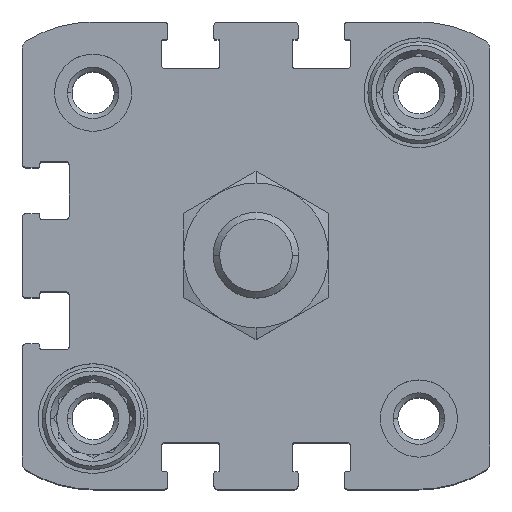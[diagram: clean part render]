
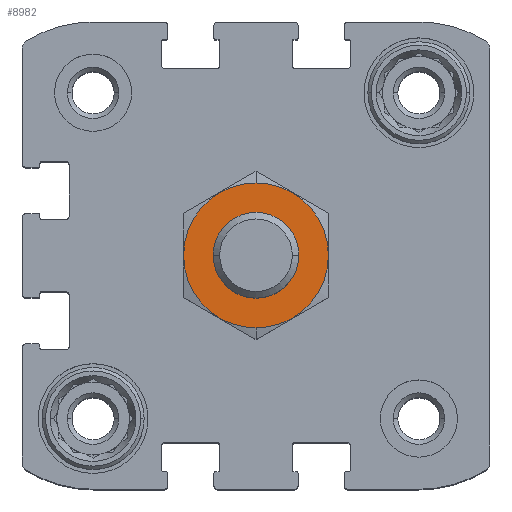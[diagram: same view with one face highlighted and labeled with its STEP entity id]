
A CAD part, top view. The second image highlights one B-rep face of the part: STEP entity #8982.
In plain terms, the highlighted planar face has unit normal (0, 0, 1).
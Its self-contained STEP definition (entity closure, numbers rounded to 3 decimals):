
#56 = AXIS2_PLACEMENT_3D ( 'NONE', #14040, #462, #15189 ) ;
#122 = PLANE ( 'NONE',  #4573 ) ;
#462 = DIRECTION ( 'NONE',  ( 0., 0., -1. ) ) ;
#693 = EDGE_LOOP ( 'NONE', ( #5436, #11443 ) ) ;
#986 = DIRECTION ( 'NONE',  ( 0., 1., 0. ) ) ;
#1262 = EDGE_CURVE ( 'NONE', #10449, #4059, #2292, .T. ) ;
#1308 = ORIENTED_EDGE ( 'NONE', *, *, #6305, .T. ) ;
#1431 = DIRECTION ( 'NONE',  ( 0., 1., 0. ) ) ;
#2292 = CIRCLE ( 'NONE', #56, 8.45 ) ;
#2749 = FACE_OUTER_BOUND ( 'NONE', #693, .T. ) ;
#2959 = DIRECTION ( 'NONE',  ( 0., 1., 0. ) ) ;
#3013 = CARTESIAN_POINT ( 'NONE',  ( 0., 5., 15.8 ) ) ;
#3563 = AXIS2_PLACEMENT_3D ( 'NONE', #12259, #10945, #2959 ) ;
#4059 = VERTEX_POINT ( 'NONE', #6069 ) ;
#4573 = AXIS2_PLACEMENT_3D ( 'NONE', #13435, #5485, #1431 ) ;
#4967 = CIRCLE ( 'NONE', #3563, 5. ) ;
#5210 = VERTEX_POINT ( 'NONE', #3013 ) ;
#5436 = ORIENTED_EDGE ( 'NONE', *, *, #15022, .F. ) ;
#5485 = DIRECTION ( 'NONE',  ( 0., 0., -1. ) ) ;
#5850 = AXIS2_PLACEMENT_3D ( 'NONE', #6336, #15374, #986 ) ;
#6069 = CARTESIAN_POINT ( 'NONE',  ( 0., 8.45, 15.8 ) ) ;
#6085 = CARTESIAN_POINT ( 'NONE',  ( 0., -5., 15.8 ) ) ;
#6305 = EDGE_CURVE ( 'NONE', #15287, #5210, #13381, .T. ) ;
#6336 = CARTESIAN_POINT ( 'NONE',  ( 0., 0., 15.8 ) ) ;
#6784 = DIRECTION ( 'NONE',  ( 0., 1., 0. ) ) ;
#8115 = FACE_BOUND ( 'NONE', #8458, .T. ) ;
#8458 = EDGE_LOOP ( 'NONE', ( #1308, #11362 ) ) ;
#8982 = ADVANCED_FACE ( 'NONE', ( #2749, #8115 ), #122, .F. ) ;
#9775 = CARTESIAN_POINT ( 'NONE',  ( 0., -8.45, 15.8 ) ) ;
#10449 = VERTEX_POINT ( 'NONE', #9775 ) ;
#10945 = DIRECTION ( 'NONE',  ( 0., 0., -1. ) ) ;
#11362 = ORIENTED_EDGE ( 'NONE', *, *, #16027, .T. ) ;
#11443 = ORIENTED_EDGE ( 'NONE', *, *, #1262, .F. ) ;
#12259 = CARTESIAN_POINT ( 'NONE',  ( 0., 0., 15.8 ) ) ;
#13171 = DIRECTION ( 'NONE',  ( 0., 0., -1. ) ) ;
#13381 = CIRCLE ( 'NONE', #5850, 5. ) ;
#13429 = CARTESIAN_POINT ( 'NONE',  ( 0., 0., 15.8 ) ) ;
#13435 = CARTESIAN_POINT ( 'NONE',  ( 0., 0., 15.8 ) ) ;
#14040 = CARTESIAN_POINT ( 'NONE',  ( 0., 0., 15.8 ) ) ;
#15022 = EDGE_CURVE ( 'NONE', #4059, #10449, #16686, .T. ) ;
#15189 = DIRECTION ( 'NONE',  ( 0., 1., 0. ) ) ;
#15287 = VERTEX_POINT ( 'NONE', #6085 ) ;
#15374 = DIRECTION ( 'NONE',  ( 0., 0., -1. ) ) ;
#16027 = EDGE_CURVE ( 'NONE', #5210, #15287, #4967, .T. ) ;
#16410 = AXIS2_PLACEMENT_3D ( 'NONE', #13429, #13171, #6784 ) ;
#16686 = CIRCLE ( 'NONE', #16410, 8.45 ) ;
